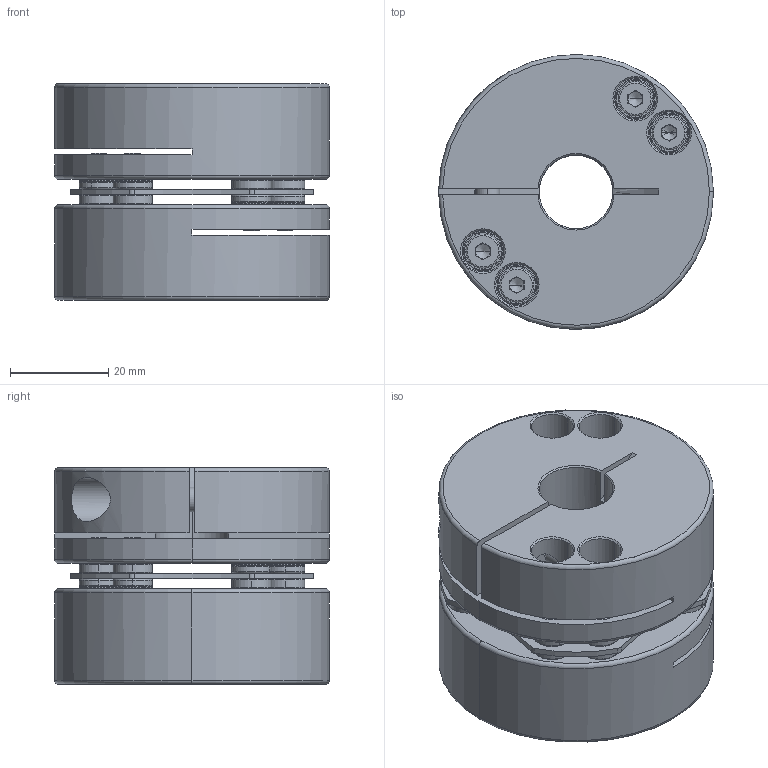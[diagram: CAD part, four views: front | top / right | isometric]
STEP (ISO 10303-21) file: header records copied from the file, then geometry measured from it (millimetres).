
FILE_DESCRIPTION (( 'STEP AP214' ), '1' );
FILE_NAME ('SHDS-56C.STEP', '2009-05-21T06:17:10', ( '歜煽繹' ), ( '' ), 'SwSTEP 2.0', 'SolidWorks 2007', '' );
FILE_SCHEMA (( 'AUTOMOTIVE_DESIGN' ));
Length unit declared in the file: millimetre
Products named in the file (8): 憮蝶っ-asm_ル遽; SHDS-56C; collar-1_ル遽; collar-2_ル遽; M4x10; 誠纖掘葬_ル遽; sus-plate1_ル遽; M5x18
Assembly tree (30 placements, depth 3):
  SHDS-56C
    誠纖掘葬_ル遽  x2
    M5x18  x2
    憮蝶っ-asm_ル遽
      collar-2_ル遽  x8
      collar-1_ル遽  x8
      M4x10  x8
      sus-plate1_ル遽
Bounding box: 56 x 56 x 44.2 mm (x, y, z)
Volume: 79729.4 mm3; surface area: 36380.3 mm2
Topology: 29 solids, 29 shells, 743 faces, 1629 edges, 962 vertices
Faces by surface type: plane 228, cylinder 227, torus 208, cone 80
Entity records: 6562 total; most frequent: DIRECTION 1224, CARTESIAN_POINT 1174, ORIENTED_EDGE 958, AXIS2_PLACEMENT_3D 519, EDGE_CURVE 479, VERTEX_POINT 297, CIRCLE 281, EDGE_LOOP 258
